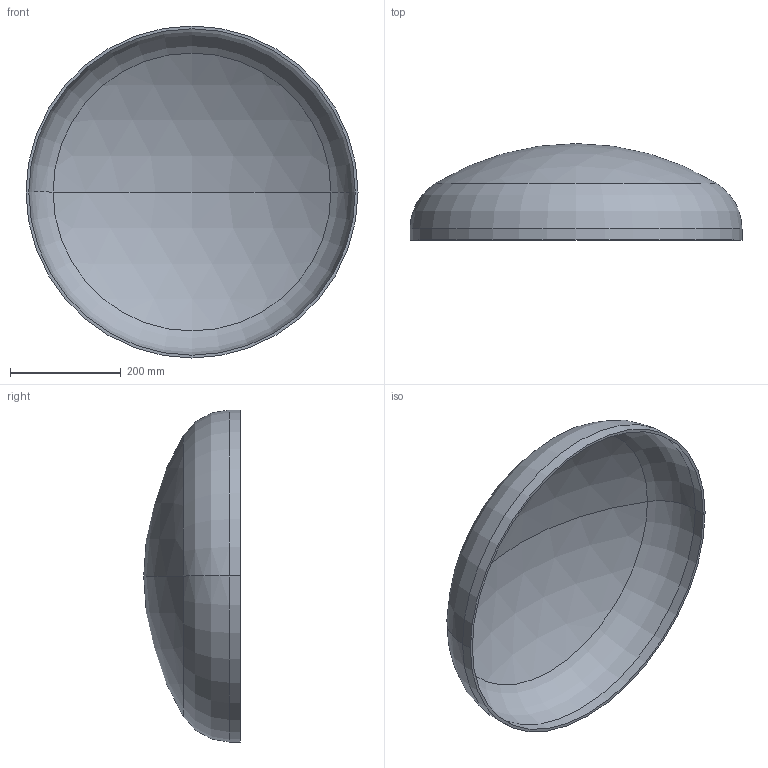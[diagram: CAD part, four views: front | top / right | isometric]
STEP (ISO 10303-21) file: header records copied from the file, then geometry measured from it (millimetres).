
FILE_DESCRIPTION (( 'STEP AP203' ), '1' );
FILE_NAME ('DIN 28013 Korbbogenform_-_Boden DIN 28013 - 600 x 20 - I - s=5.step', '2016-07-01T07:56:45', ( '' ), ( '' ), 'SwSTEP 2.0', 'SolidWorks 2013', '' );
FILE_SCHEMA (( 'CONFIG_CONTROL_DESIGN' ));
Length unit declared in the file: millimetre
Products named in the file (1): DIN 28013 Korbbogenform_-_Boden DIN 28013 - 600 x 20 - I - s=5
Bounding box: 600 x 174.34 x 600 mm (x, y, z)
Volume: 2121812.3 mm3; surface area: 858123.2 mm2
Topology: 1 solids, 1 shells, 13 faces, 24 edges, 14 vertices
Faces by surface type: torus 4, cylinder 4, sphere 4, plane 1
Entity records: 407 total; most frequent: DIRECTION 72, CARTESIAN_POINT 52, ORIENTED_EDGE 48, AXIS2_PLACEMENT_3D 34, EDGE_CURVE 24, CIRCLE 20, EDGE_LOOP 14, VERTEX_POINT 14
